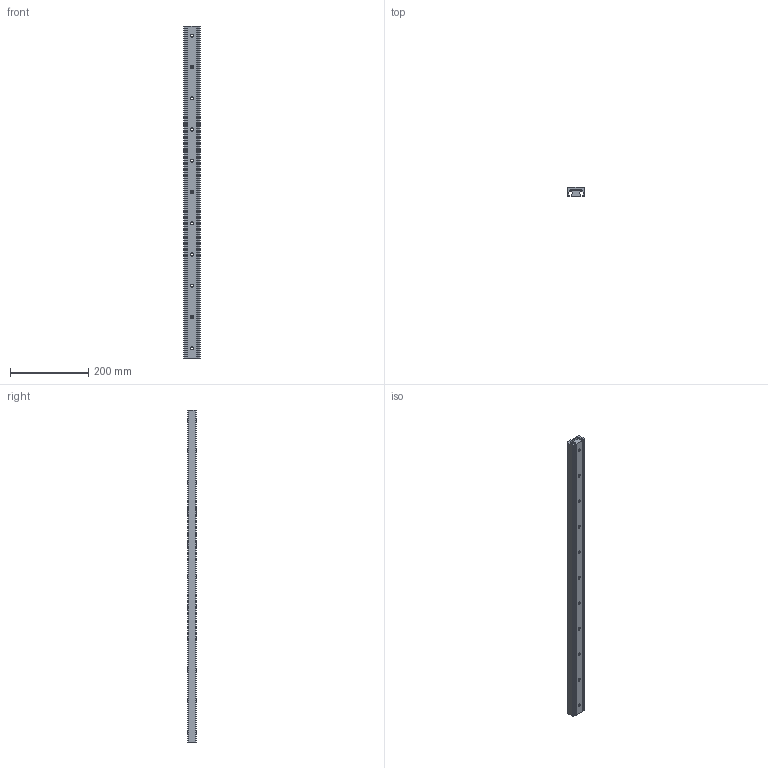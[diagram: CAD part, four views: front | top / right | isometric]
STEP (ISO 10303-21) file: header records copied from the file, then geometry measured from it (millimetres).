
FILE_DESCRIPTION(('STEP AP214'),'1');
FILE_NAME('rail_asn43-850_00.stp','2017-06-06T10:17:15',('TraceParts'),('TraceParts S.A.'),'Spatial InterOp 3D',' ',' ');
FILE_SCHEMA(('automotive_design'));
Length unit declared in the file: millimetre
Products named in the file (2): rail_asn43-850_00_1; rail_asn43-850_00_2
Bounding box: 43 x 22.01 x 850 mm (x, y, z)
Volume: 517425.3 mm3; surface area: 200766.4 mm2
Topology: 2 solids, 2 shells, 187 faces, 468 edges, 290 vertices
Faces by surface type: cylinder 75, cone 66, plane 46
Entity records: 5708 total; most frequent: DIRECTION 1062, CARTESIAN_POINT 947, ORIENTED_EDGE 936, EDGE_CURVE 468, AXIS2_PLACEMENT_3D 405, VERTEX_POINT 290, LINE 252, VECTOR 252
